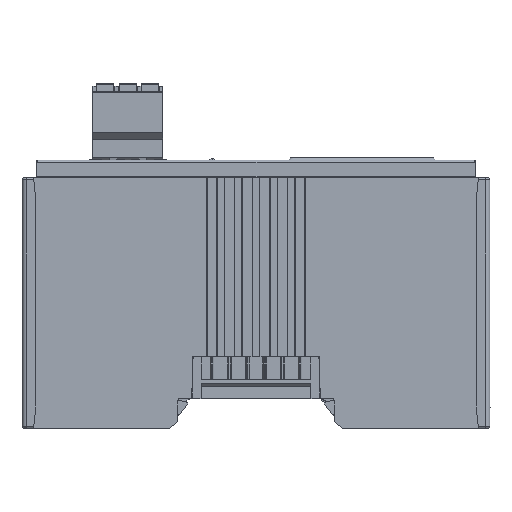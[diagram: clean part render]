
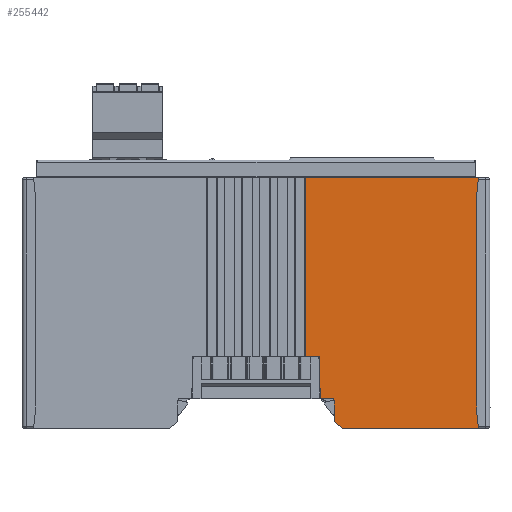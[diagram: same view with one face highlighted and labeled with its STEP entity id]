
A CAD part, left-side view. The second image highlights one B-rep face of the part: STEP entity #255442.
In plain terms, the highlighted planar face has unit normal (-1, 0, 0).
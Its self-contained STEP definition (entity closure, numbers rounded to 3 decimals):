
#10452=DIRECTION('',(0.,1.,0.));
#10453=VECTOR('',#10452,3.16);
#10454=CARTESIAN_POINT('',(-11.25,-14.36,-40.7));
#10455=LINE('',#10454,#10453);
#21304=DIRECTION('',(0.,1.,0.));
#21305=VECTOR('',#21304,40.8);
#21306=CARTESIAN_POINT('',(-11.25,-52.,0.));
#21307=LINE('',#21306,#21305);
#81477=CARTESIAN_POINT('',(-11.25,-19.813,-56.7));
#81478=DIRECTION('',(-1.,0.,0.));
#81479=DIRECTION('',(0.,0.682,-0.731));
#81480=AXIS2_PLACEMENT_3D('',#81477,#81478,#81479);
#81482=DIRECTION('',(0.,-0.731,-0.682));
#81483=VECTOR('',#81482,2.326);
#81484=CARTESIAN_POINT('',(-11.25,-17.907,-55.333));
#81485=LINE('',#81484,#81483);
#81486=CARTESIAN_POINT('',(-11.25,-18.112,-55.114));
#81487=DIRECTION('',(-1.,0.,0.));
#81488=DIRECTION('',(0.,1.,-0.017));
#81489=AXIS2_PLACEMENT_3D('',#81486,#81487,#81488);
#81491=DIRECTION('',(0.,0.017,1.));
#81492=VECTOR('',#81491,4.82);
#81493=CARTESIAN_POINT('',(-11.25,-17.812,-55.119));
#81494=LINE('',#81493,#81492);
#81495=DIRECTION('',(0.,1.,0.));
#81496=VECTOR('',#81495,3.116);
#81497=CARTESIAN_POINT('',(-11.25,-17.727,-50.3));
#81498=LINE('',#81497,#81496);
#81499=DIRECTION('',(0.,-0.026,-1.));
#81500=VECTOR('',#81499,9.603);
#81501=CARTESIAN_POINT('',(-11.25,-14.36,-40.7));
#81502=LINE('',#81501,#81500);
#81503=DIRECTION('',(0.,1.,0.));
#81504=VECTOR('',#81503,32.187);
#81505=CARTESIAN_POINT('',(-11.25,-52.,-57.));
#81506=LINE('',#81505,#81504);
#81568=DIRECTION('',(0.,0.114,0.994));
#81569=VECTOR('',#81568,3.523);
#81570=CARTESIAN_POINT('',(-11.25,-52.,-57.));
#81571=LINE('',#81570,#81569);
#81580=DIRECTION('',(0.,0.,-1.));
#81581=VECTOR('',#81580,50.);
#81582=CARTESIAN_POINT('',(-11.25,-51.6,-3.5));
#81583=LINE('',#81582,#81581);
#81588=DIRECTION('',(0.,-0.114,0.994));
#81589=VECTOR('',#81588,3.523);
#81590=CARTESIAN_POINT('',(-11.25,-51.6,-3.5));
#81591=LINE('',#81590,#81589);
#84233=DIRECTION('',(0.,0.,-1.));
#84234=VECTOR('',#84233,40.7);
#84235=CARTESIAN_POINT('',(-11.25,-11.2,0.));
#84236=LINE('',#84235,#84234);
#120240=CARTESIAN_POINT('',(-11.25,-52.,0.));
#120242=VERTEX_POINT('',#120240);
#120244=CARTESIAN_POINT('',(-11.25,-51.6,-3.5));
#120246=VERTEX_POINT('',#120244);
#120249=CARTESIAN_POINT('',(-11.25,-51.6,-53.5));
#120251=VERTEX_POINT('',#120249);
#120253=CARTESIAN_POINT('',(-11.25,-52.,-57.));
#120255=VERTEX_POINT('',#120253);
#120873=CARTESIAN_POINT('',(-11.25,-14.36,-40.7));
#120874=CARTESIAN_POINT('',(-11.25,-14.612,-50.3));
#120875=VERTEX_POINT('',#120873);
#120876=VERTEX_POINT('',#120874);
#122796=CARTESIAN_POINT('',(-11.25,-17.727,-50.3));
#122797=VERTEX_POINT('',#122796);
#122812=CARTESIAN_POINT('',(-11.25,-11.2,-40.7));
#122814=VERTEX_POINT('',#122812);
#124414=CARTESIAN_POINT('',(-11.25,-11.2,0.));
#124415=VERTEX_POINT('',#124414);
#124672=CARTESIAN_POINT('',(-11.25,-19.608,-56.919));
#124673=VERTEX_POINT('',#124672);
#124674=CARTESIAN_POINT('',(-11.25,-19.813,-57.));
#124675=VERTEX_POINT('',#124674);
#124676=CARTESIAN_POINT('',(-11.25,-17.812,-55.119));
#124677=CARTESIAN_POINT('',(-11.25,-17.907,-55.333));
#124678=VERTEX_POINT('',#124676);
#124679=VERTEX_POINT('',#124677);
#255413=CARTESIAN_POINT('',(-11.25,50.,0.));
#255414=DIRECTION('',(-1.,0.,0.));
#255415=DIRECTION('',(0.,-1.,0.));
#255416=AXIS2_PLACEMENT_3D('',#255413,#255414,#255415);
#255417=PLANE('',#255416);
#255419=ORIENTED_EDGE('',*,*,#255418,.F.);
#255421=ORIENTED_EDGE('',*,*,#255420,.F.);
#255423=ORIENTED_EDGE('',*,*,#255422,.F.);
#255425=ORIENTED_EDGE('',*,*,#255424,.T.);
#255426=ORIENTED_EDGE('',*,*,#254901,.T.);
#255427=ORIENTED_EDGE('',*,*,#163895,.F.);
#255428=ORIENTED_EDGE('',*,*,#162875,.T.);
#255430=ORIENTED_EDGE('',*,*,#255429,.F.);
#255431=ORIENTED_EDGE('',*,*,#174255,.F.);
#255433=ORIENTED_EDGE('',*,*,#255432,.F.);
#255435=ORIENTED_EDGE('',*,*,#255434,.T.);
#255437=ORIENTED_EDGE('',*,*,#255436,.F.);
#255439=ORIENTED_EDGE('',*,*,#255438,.T.);
#255440=EDGE_LOOP('',(#255419,#255421,#255423,#255425,#255426,#255427,#255428,
#255430,#255431,#255433,#255435,#255437,#255439));
#255441=FACE_OUTER_BOUND('',#255440,.F.);
#255442=ADVANCED_FACE('',(#255441),#255417,.T.);
#81481=CIRCLE('',#81480,0.3);
#81490=CIRCLE('',#81489,0.3);
#162875=EDGE_CURVE('',#120875,#122814,#10455,.T.);
#163895=EDGE_CURVE('',#120875,#120876,#81502,.T.);
#174255=EDGE_CURVE('',#120242,#124415,#21307,.T.);
#254901=EDGE_CURVE('',#122797,#120876,#81498,.T.);
#255418=EDGE_CURVE('',#124673,#124675,#81481,.T.);
#255420=EDGE_CURVE('',#124679,#124673,#81485,.T.);
#255422=EDGE_CURVE('',#124678,#124679,#81490,.T.);
#255424=EDGE_CURVE('',#124678,#122797,#81494,.T.);
#255429=EDGE_CURVE('',#124415,#122814,#84236,.T.);
#255432=EDGE_CURVE('',#120246,#120242,#81591,.T.);
#255434=EDGE_CURVE('',#120246,#120251,#81583,.T.);
#255436=EDGE_CURVE('',#120255,#120251,#81571,.T.);
#255438=EDGE_CURVE('',#120255,#124675,#81506,.T.);
